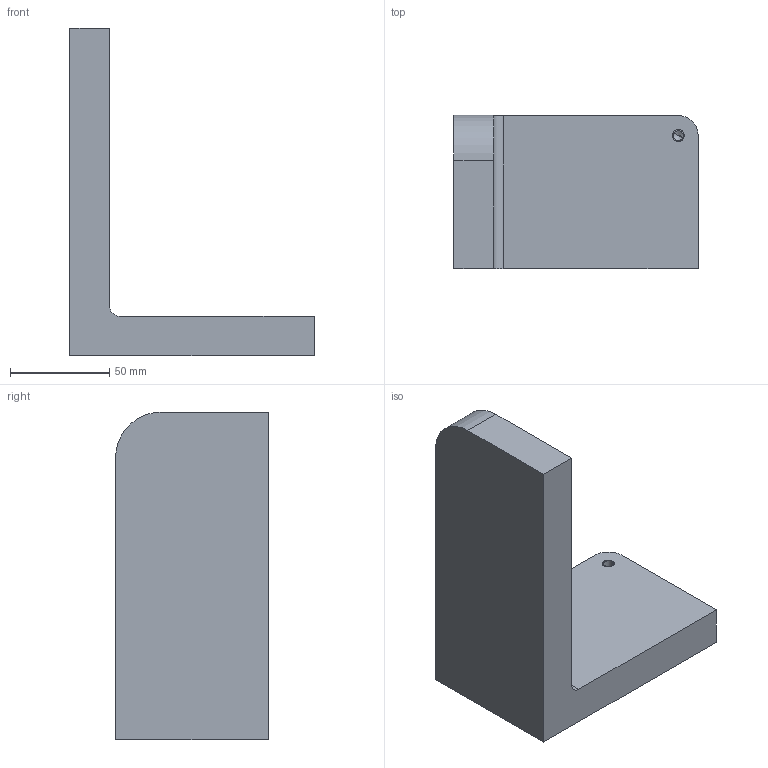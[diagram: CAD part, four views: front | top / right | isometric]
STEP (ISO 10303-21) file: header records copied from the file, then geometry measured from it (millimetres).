
FILE_DESCRIPTION(('CATIA V5 STEP Exchange'),'2;1');
FILE_NAME('C:\_Andres\UNIVERSIDAD\IQS\ASIGNATURAS\DAO\EXF\EXF-16172c\2inicio\Perez_Pellicer_Ej01_v23.stp','2017-03-05T15:11:09+00:00',('none'),('none'),'CATIA Version 5-6 Release 2014 SP1 HF18','CATIA V5 STEP AP203','none');
FILE_SCHEMA(('CONFIG_CONTROL_DESIGN'));
Length unit declared in the file: millimetre
Products named in the file (1): Perez_Pellicer_Ej01_v23
Bounding box: 123 x 77 x 165 mm (x, y, z)
Volume: 410120.6 mm3; surface area: 54840.5 mm2
Topology: 1 solids, 2 shells, 17 faces, 43 edges, 27 vertices
Faces by surface type: plane 8, cylinder 7, cone 2
Entity records: 513 total; most frequent: CARTESIAN_POINT 83, ORIENTED_EDGE 78, DIRECTION 69, EDGE_CURVE 41, AXIS2_PLACEMENT_3D 29, VECTOR 27, LINE 27, VERTEX_POINT 27
